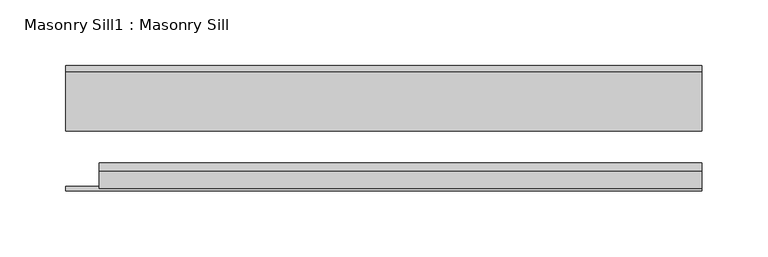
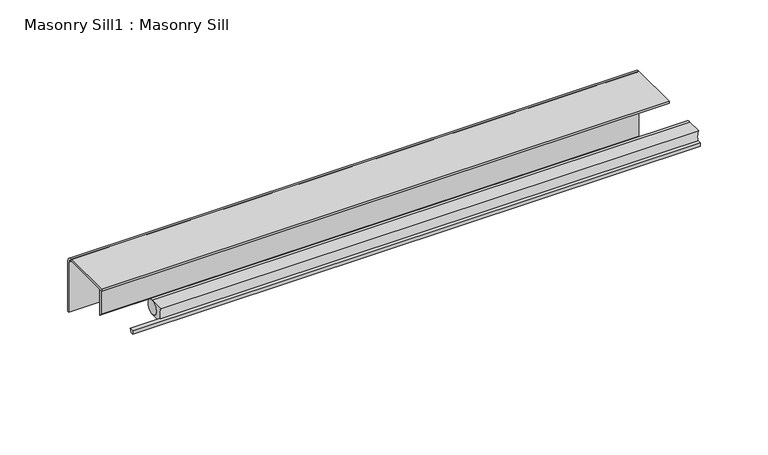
"""IFC4 building model written with IfcOpenShell, lengths in millimetres: proxy geometry, Masonry Sill1 : Masonry Sill."""

from ifc_helpers import new_model, si_unit, point, frame, frame_2d, origin, place, context, project, spatial, polyline, circle_curve, trimmed, segment, composite_curve, outline, extrude, source, transform, mapped, element, save


def masonry_sill1_masonry_sill_09de60a1(model_context):
    return source(origin(), model_context, "Body", "SweptSolid", [
        extrude(outline(composite_curve([segment(polyline([(-279.4, 553.651901), (-279.4, 540.951901)]), True, "CONTINUOUS"), segment(trimmed(circle_curve(frame_2d((-285.75, 529.9533784)), 12.7), [point((-279.4, 540.951901))], [point((-292.1, 540.951901))], True, "CARTESIAN"), True, "CONTINUOUS"), segment(polyline([(-292.1, 540.951901), (-292.1, 553.651901)]), True, "CONTINUOUS"), segment(trimmed(circle_curve(frame_2d((-285.75, 553.651901)), 6.35), [point((-292.1, 553.651901))], [point((-279.4, 553.651901))], True, "CARTESIAN"), True, "CONTINUOUS")], self_intersect=False)), frame((27098.7726773, 0.0, 0.0), z_axis=(-1.0, 0.0, 0.0), x_axis=(0.0, 0.0, 1.0)), (0.0, 0.0, 1.0), 457.2),
        extrude(outline(composite_curve([segment(trimmed(circle_curve(frame_2d((553.651901, -285.75)), 6.35), [point((553.651901, -292.1))], [point((553.651901, -279.4))], False, "CARTESIAN"), True, "CONTINUOUS"), segment(trimmed(circle_curve(frame_2d((553.651901, -285.75)), 6.35), [point((553.651901, -279.4))], [point((553.651901, -292.1))], False, "CARTESIAN"), True, "CONTINUOUS")], self_intersect=False)), frame((26641.5726773, 0.0, 0.0), z_axis=(1.0, 0.0, 0.0), x_axis=(0.0, 1.0, 0.0)), (0.0, 0.0, 1.0), 457.2),
        extrude(outline(composite_curve([segment(polyline([(540.951901, -292.1), (538.7629049, -292.1), (538.7629049, -288.9140378), (542.2665508, -288.9140378)]), True, "CONTINUOUS"), segment(trimmed(circle_curve(frame_2d((529.9780063, -285.7075329)), 12.7), [point((542.2665508, -288.9140378))], [point((540.951901, -292.1))], False, "CARTESIAN"), True, "CONTINUOUS")], self_intersect=False)), frame((26616.1726773, 0.0, 0.0), z_axis=(1.0, 0.0, 0.0), x_axis=(0.0, 1.0, 0.0)), (0.0, 0.0, 1.0), 482.6),
        extrude(outline(polyline([(630.8066297, -339.609801), (629.2191297, -338.022301), (629.2191297, -285.75), (630.8066297, -285.75), (630.8066297, -339.609801)])), frame((26641.5726773, 0.0, 0.0), z_axis=(1.0, 0.0, 0.0), x_axis=(0.0, 1.0, 0.0)), (0.0, 0.0, 1.0), 457.2),
        extrude(outline(composite_curve([segment(trimmed(circle_curve(frame_2d((629.2191297, -284.1625)), 4.7625), [point((629.2191297, -279.4))], [point((633.9816297, -284.1625))], False, "CARTESIAN"), True, "CONTINUOUS"), segment(polyline([(633.9816297, -284.1625), (633.9816297, -329.1110308), (632.3941297, -329.1110308), (632.3941297, -284.1625)]), True, "CONTINUOUS"), segment(trimmed(circle_curve(frame_2d((629.2191297, -284.1625)), 3.175), [point((632.3941297, -284.1625))], [point((629.2191297, -280.9875))], True, "CARTESIAN"), True, "CONTINUOUS"), segment(polyline([(629.2191297, -280.9875), (584.2705988, -280.9875), (584.2705988, -279.4), (629.2191297, -279.4)]), True, "CONTINUOUS")], self_intersect=False)), frame((26616.1726773, 0.0, 0.0), z_axis=(1.0, 0.0, 0.0), x_axis=(0.0, 1.0, 0.0)), (0.0, 0.0, 1.0), 482.6),
    ])


if __name__ == "__main__":
    model = new_model("IFC4")
    model_context = context("Model", 3, world=origin())
    ifc_project = project(units=[si_unit("LENGTHUNIT", "METRE", prefix="MILLI")], contexts=[model_context])
    site = spatial("IfcSite", under=ifc_project)
    building = spatial("IfcBuilding", under=site)
    placement = place(None, origin())
    masonry_sill1_masonry_sill_shape = masonry_sill1_masonry_sill_09de60a1(model_context)
    element("IfcBuildingElementProxy", 1, Name="Masonry Sill1 : Masonry Sill", ObjectType="Masonry Sill1 : Masonry Sill", at=placement, inside=building, context=model_context, shape_type="MappedRepresentation", body=[
        mapped(masonry_sill1_masonry_sill_shape, transform((0.0, 0.0, 0.0), x_axis=(1.0, 0.0, 0.0), y_axis=(0.0, 1.0, 0.0), z_axis=(0.0, 0.0, 1.0))),
    ])
    save(model, "model.ifc")
